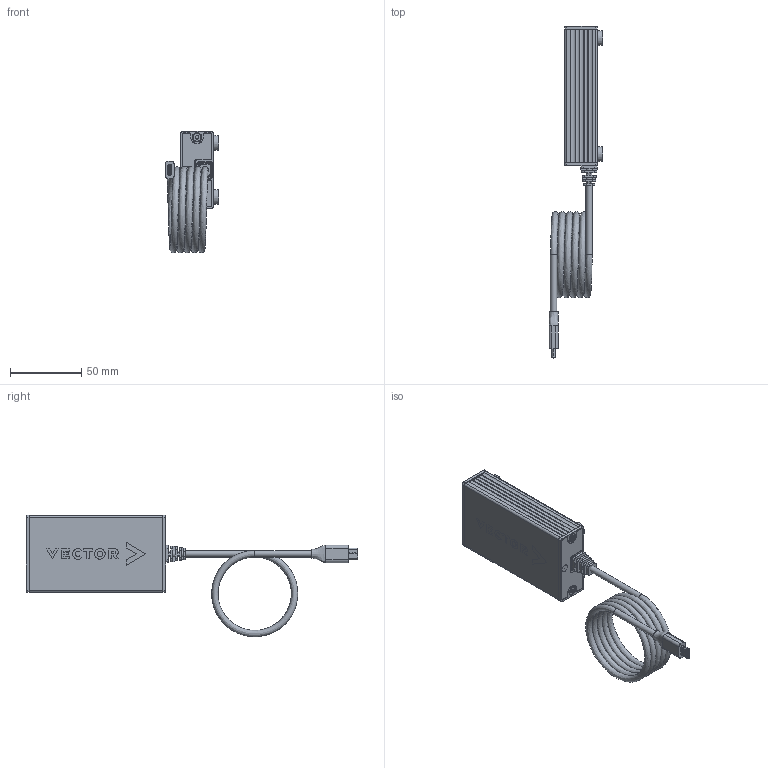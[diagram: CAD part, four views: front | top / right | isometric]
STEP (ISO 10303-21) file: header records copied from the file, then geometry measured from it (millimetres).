
FILE_DESCRIPTION(/* description */ (''),/* implementation_level */ '2;1');
FILE_NAME(/* name */ 'C:\Users\visnsg\Documents\Projekte\VN5614\CustomerModel\VN5614.stp',/* time_stamp */ '2024-12-03T15:08:50+01:00',/* author */ ('visnsg'),/* organization */ (''),/* preprocessor_version */ 'ST-DEVELOPER v18.1',/* originating_system */ 'Autodesk Inventor 2022',/* authorisation */ '');
FILE_SCHEMA (('AUTOMOTIVE_DESIGN { 1 0 10303 214 3 1 1 }'));
Products named in the file (1): VN5614
Bounding box: 37.89 x 233.48 x 85.31 mm (x, y, z)
Surface area: 83531.1 mm2 (no closed solid volume)
Topology: 0 solids, 33 shells, 3916 faces, 10820 edges, 6856 vertices
Faces by surface type: plane 2673, cylinder 991, cone 108, bspline 98, torus 30, sphere 16
Full cylindrical faces by diameter (mm): 0.001 x9, 0.4 x10, 0.5 x17, 2.5 x2, 2.625 x4, 2.66 x4, 2.7 x4, 2.85 x8, 3 x6, 3.5 x8, 3.6 x4, 3.75 x8, 3.8 x8, 3.881 x1, 4.2 x1, 4.5 x7, 5.3 x1, 5.5 x4, 5.6 x4, 5.65 x8, 6.4 x1, 7 x4, 7.428 x1
Entity records: 134346 total; most frequent: CARTESIAN_POINT 28902, ORIENTED_EDGE 21626, DIRECTION 20602, EDGE_CURVE 10813, LINE 8254, VECTOR 8254, VERTEX_POINT 6856, AXIS2_PLACEMENT_3D 6174
